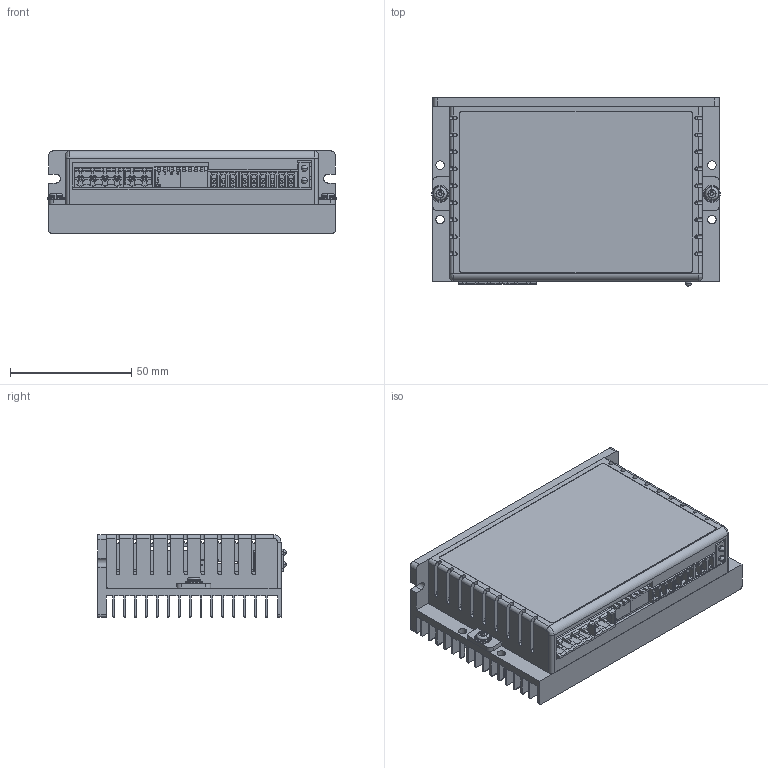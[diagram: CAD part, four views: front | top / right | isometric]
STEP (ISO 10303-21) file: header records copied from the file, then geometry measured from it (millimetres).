
FILE_DESCRIPTION( ('This file contains a STEP AP42 implementation' ,'as created by ZW3D STEP Interface translator.' ,'') ,'2;1' );
FILE_NAME( 'WM860.stp' ,'26 117.101056', (''), ('ZWCAD Software Co.'), 'Version 1.0', 'ZW3D to STEP translator', '' );
FILE_SCHEMA(('AUTOMOTIVE_DESIGN { 1 0 10303 214 1 1 1 1 }'));
Length unit declared in the file: millimetre
Products named in the file (1): 0
Bounding box: 119 x 77.6 x 34 mm (x, y, z)
Volume: 97236.1 mm3; surface area: 109714 mm2
Topology: 17 solids, 17 shells, 2269 faces, 6099 edges, 3940 vertices
Faces by surface type: plane 1876, cylinder 289, bspline 62, cone 22, torus 16, sphere 4
Entity records: 83073 total; most frequent: CARTESIAN_POINT 24467, ORIENTED_EDGE 12182, DIRECTION 10623, EDGE_CURVE 6091, VECTOR 5163, LINE 5163, VERTEX_POINT 3940, AXIS2_PLACEMENT_3D 2730
